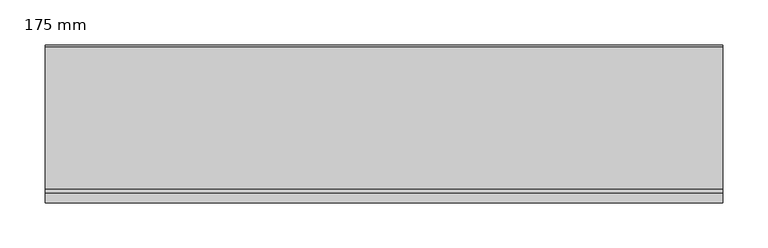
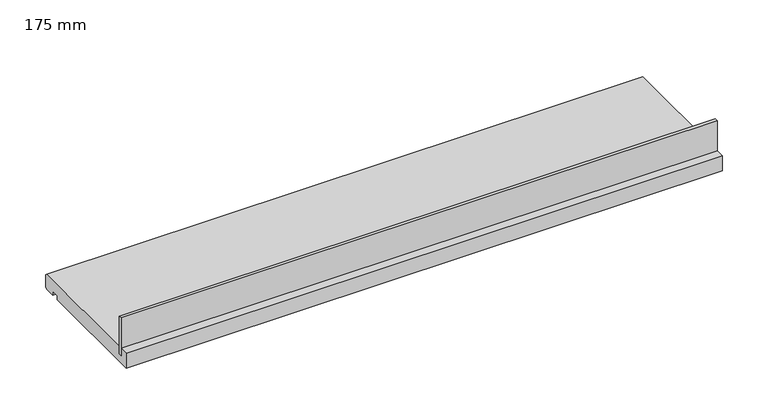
"""IFC4 building model written with IfcOpenShell, lengths in millimetres: proxy geometry, 400_35_NS_raamdorpel_kunststof_klik : 175 mm."""

from ifc_helpers import new_model, si_unit, frame, origin, place, context, project, spatial, polyline, outline, extrude, source, transform, mapped, element, save


def proxy_175_mm_2a68124a(model_context):
    return source(origin(), model_context, "Body", "SweptSolid", [
        extrude(outline(polyline([(-375.0, 11.0), (-375.0, 15.0), (375.0, 15.0), (375.0, 11.0), (-375.0, 11.0)])), frame((0.0, 0.0, 10.0), z_axis=(0.0, 0.0, 1.0), x_axis=(1.0, 0.0, 0.0)), (0.0, 0.0, 1.0), 50.0),
        extrude(outline(polyline([(15.0, 20.0), (173.0, 20.0), (175.0, 18.0), (175.0, 2.0), (173.0, 0.0), (160.0, 0.0), (160.0, 5.0), (150.0, 5.0), (150.0, 0.0), (0.0, 0.0), (0.0, 20.0), (11.0, 20.0), (11.0, 10.0), (15.0, 10.0), (15.0, 20.0)])), frame((-375.0, 0.0, 0.0), z_axis=(1.0, 0.0, 0.0), x_axis=(0.0, 1.0, 0.0)), (0.0, 0.0, 1.0), 750.0),
    ])


if __name__ == "__main__":
    model = new_model("IFC4")
    model_context = context("Model", 3, world=origin())
    ifc_project = project(units=[si_unit("LENGTHUNIT", "METRE", prefix="MILLI")], contexts=[model_context])
    site = spatial("IfcSite", under=ifc_project)
    building = spatial("IfcBuilding", under=site)
    placement = place(None, origin())
    proxy_175_mm_shape = proxy_175_mm_2a68124a(model_context)
    element("IfcBuildingElementProxy", 1, Name="400_35_NS_raamdorpel_kunststof_klik : 175 mm", ObjectType="400_35_NS_raamdorpel_kunststof_klik : 175 mm", at=placement, inside=building, context=model_context, shape_type="MappedRepresentation", body=[
        mapped(proxy_175_mm_shape, transform((0.0, 0.0, 0.0), x_axis=(1.0, 0.0, 0.0), y_axis=(0.0, 1.0, 0.0), z_axis=(0.0, 0.0, 1.0))),
    ])
    save(model, "model.ifc")
